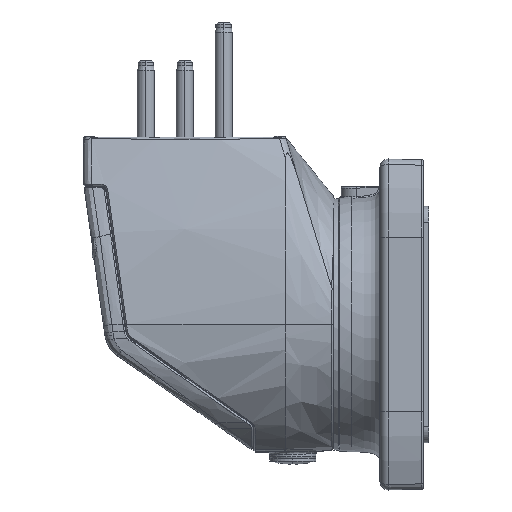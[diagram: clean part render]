
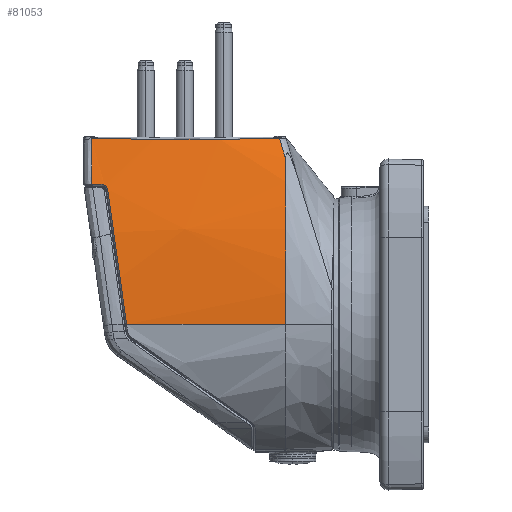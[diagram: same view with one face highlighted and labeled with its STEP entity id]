
A CAD part, left-side view. The second image highlights one B-rep face of the part: STEP entity #81053.
In plain terms, the highlighted free-form (B-spline) face has degree [3, 3] with [5, 5] control points.
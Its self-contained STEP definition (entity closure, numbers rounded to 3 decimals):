
#52681=CARTESIAN_POINT('',(-32.424,16.998,
57.426));
#52710=CARTESIAN_POINT('',(104.245,17.,0.));
#52711=DIRECTION('',(0.,-1.,0.));
#52712=DIRECTION('',(-0.974,0.,0.225));
#52713=AXIS2_PLACEMENT_3D('',#52710,#52711,#52712);
#52718=CARTESIAN_POINT('',(104.245,17.,0.));
#52719=DIRECTION('',(0.,-1.,0.));
#52720=DIRECTION('',(-0.922,0.,0.387));
#52721=AXIS2_PLACEMENT_3D('',#52718,#52719,#52720);
#52739=CARTESIAN_POINT('',(-29.615,19.125,
64.427));
#52740=CARTESIAN_POINT('',(-29.917,18.898,
63.709));
#52741=CARTESIAN_POINT('',(-30.528,18.437,
62.234));
#52742=CARTESIAN_POINT('',(-31.471,17.724,
59.892));
#52743=CARTESIAN_POINT('',(-32.105,17.241,
58.261));
#52744=CARTESIAN_POINT('',(-32.424,16.998,
57.426));
#52749=DIRECTION('',(0.,1.,0.));
#52750=VECTOR('',#52749,55.175);
#52751=CARTESIAN_POINT('',(-44.,17.,0.));
#52752=LINE('',#52751,#52750);
#52756=CARTESIAN_POINT('',(-36.975,78.784,
46.947));
#52757=CARTESIAN_POINT('',(-38.133,78.263,
43.274));
#52758=CARTESIAN_POINT('',(-40.143,77.22,
35.893));
#52759=CARTESIAN_POINT('',(-42.357,75.582,
24.265));
#52760=CARTESIAN_POINT('',(-43.697,73.904,
12.325));
#52761=CARTESIAN_POINT('',(-44.,72.748,
4.088));
#52762=CARTESIAN_POINT('',(-44.,72.175,0.));
#52767=CARTESIAN_POINT('',(-36.295,80.734,
48.676));
#52768=CARTESIAN_POINT('',(-36.31,80.549,
48.673));
#52769=CARTESIAN_POINT('',(-36.355,80.184,
48.615));
#52770=CARTESIAN_POINT('',(-36.468,79.672,
48.379));
#52771=CARTESIAN_POINT('',(-36.616,79.239,
48.006));
#52772=CARTESIAN_POINT('',(-36.792,78.92,
47.514));
#52773=CARTESIAN_POINT('',(-36.915,78.811,
47.138));
#52774=CARTESIAN_POINT('',(-36.975,78.784,
46.947));
#52779=CARTESIAN_POINT('',(-35.994,84.262,
48.743));
#52780=CARTESIAN_POINT('',(-36.029,83.87,
48.736));
#52781=CARTESIAN_POINT('',(-36.099,83.085,
48.721));
#52782=CARTESIAN_POINT('',(-36.199,81.909,
48.699));
#52783=CARTESIAN_POINT('',(-36.263,81.126,
48.684));
#52784=CARTESIAN_POINT('',(-36.295,80.734,
48.676));
#52789=CARTESIAN_POINT('',(-35.994,84.262,
48.743));
#52790=CARTESIAN_POINT('',(-35.586,84.274,
49.948));
#52791=CARTESIAN_POINT('',(-34.722,84.299,
52.401));
#52792=CARTESIAN_POINT('',(-33.283,84.341,
56.168));
#52793=CARTESIAN_POINT('',(-31.643,84.389,
60.131));
#52794=CARTESIAN_POINT('',(-30.369,84.426,
62.968));
#52795=CARTESIAN_POINT('',(-29.684,84.445,
64.425));
#52800=CARTESIAN_POINT('',(-29.615,19.125,
64.427));
#52801=CARTESIAN_POINT('',(-29.878,20.764,
64.42));
#52802=CARTESIAN_POINT('',(-30.37,24.086,
64.408));
#52803=CARTESIAN_POINT('',(-30.993,29.114,
64.392));
#52804=CARTESIAN_POINT('',(-31.519,34.44,
64.379));
#52805=CARTESIAN_POINT('',(-31.917,39.957,
64.368));
#52806=CARTESIAN_POINT('',(-32.172,45.641,
64.361));
#52807=CARTESIAN_POINT('',(-32.269,51.373,
64.359));
#52808=CARTESIAN_POINT('',(-32.208,57.026,
64.36));
#52809=CARTESIAN_POINT('',(-31.996,62.555,
64.366));
#52810=CARTESIAN_POINT('',(-31.66,67.777,
64.375));
#52811=CARTESIAN_POINT('',(-31.208,72.854,
64.387));
#52812=CARTESIAN_POINT('',(-30.598,78.228,
64.402));
#52813=CARTESIAN_POINT('',(-30.022,82.307,
64.417));
#52814=CARTESIAN_POINT('',(-29.684,84.445,
64.425));
#73933=CARTESIAN_POINT('',(-40.209,17.,33.31));
#73934=CARTESIAN_POINT('',(-44.,17.,0.));
#73935=VERTEX_POINT('',#73933);
#73936=VERTEX_POINT('',#73934);
#74151=VERTEX_POINT('',#52756);
#74152=VERTEX_POINT('',#52762);
#74180=VERTEX_POINT('',#52681);
#74183=VERTEX_POINT('',#52739);
#74283=VERTEX_POINT('',#52789);
#74284=VERTEX_POINT('',#52795);
#74977=VERTEX_POINT('',#52767);
#81011=CARTESIAN_POINT('',(-43.999,16.328,
-0.663));
#81012=CARTESIAN_POINT('',(-43.999,28.219,
-0.658));
#81013=CARTESIAN_POINT('',(-43.999,51.147,
-0.659));
#81014=CARTESIAN_POINT('',(-43.999,74.076,
-0.658));
#81015=CARTESIAN_POINT('',(-43.999,85.113,
-0.662));
#81016=CARTESIAN_POINT('',(-44.05,16.328,
10.753));
#81017=CARTESIAN_POINT('',(-44.045,28.219,
10.672));
#81018=CARTESIAN_POINT('',(-44.036,51.147,
10.699));
#81019=CARTESIAN_POINT('',(-44.044,74.076,
10.674));
#81020=CARTESIAN_POINT('',(-44.049,85.113,
10.737));
#81021=CARTESIAN_POINT('',(-41.505,16.328,
33.435));
#81022=CARTESIAN_POINT('',(-41.858,28.219,
33.179));
#81023=CARTESIAN_POINT('',(-42.166,51.147,
32.982));
#81024=CARTESIAN_POINT('',(-41.88,74.076,
33.165));
#81025=CARTESIAN_POINT('',(-41.578,85.113,
33.382));
#81026=CARTESIAN_POINT('',(-33.822,16.328,
54.947));
#81027=CARTESIAN_POINT('',(-35.218,28.219,
54.833));
#81028=CARTESIAN_POINT('',(-36.63,51.147,
54.522));
#81029=CARTESIAN_POINT('',(-35.319,74.076,
54.811));
#81030=CARTESIAN_POINT('',(-34.112,85.113,
54.922));
#81031=CARTESIAN_POINT('',(-28.86,16.328,
65.028));
#81032=CARTESIAN_POINT('',(-30.946,28.219,
65.028));
#81033=CARTESIAN_POINT('',(-32.957,51.147,
65.029));
#81034=CARTESIAN_POINT('',(-31.09,74.076,
65.028));
#81035=CARTESIAN_POINT('',(-29.293,85.113,
65.028));
#81036=B_SPLINE_SURFACE_WITH_KNOTS('',3,3,((#81011,#81012,#81013,#81014,#81015),
(#81016,#81017,#81018,#81019,#81020),(#81021,#81022,#81023,#81024,#81025),(
#81026,#81027,#81028,#81029,#81030),(#81031,#81032,#81033,#81034,#81035)),
.UNSPECIFIED.,.F.,.F.,.F.,(4,1,4),(4,1,4),(-0.01,0.5,
1.),(-0.673,35.043,68.197),
.UNSPECIFIED.);
#81037=ORIENTED_EDGE('',*,*,#80995,.T.);
#81038=ORIENTED_EDGE('',*,*,#80946,.T.);
#81039=ORIENTED_EDGE('',*,*,#80944,.T.);
#81040=ORIENTED_EDGE('',*,*,#78878,.T.);
#81042=ORIENTED_EDGE('',*,*,#81041,.F.);
#81044=ORIENTED_EDGE('',*,*,#81043,.F.);
#81046=ORIENTED_EDGE('',*,*,#81045,.F.);
#81048=ORIENTED_EDGE('',*,*,#81047,.T.);
#81050=ORIENTED_EDGE('',*,*,#81049,.F.);
#81051=EDGE_LOOP('',(#81037,#81038,#81039,#81040,#81042,#81044,#81046,#81048,
#81050));
#81052=FACE_OUTER_BOUND('',#81051,.F.);
#52714=CIRCLE('',#52713,148.245);
#52722=CIRCLE('',#52721,148.245);
#52745=B_SPLINE_CURVE_WITH_KNOTS('',3,(#52739,#52740,#52741,#52742,#52743,
#52744),.UNSPECIFIED.,.F.,.F.,(4,1,1,4),(0.,0.333,
0.667,1.),.UNSPECIFIED.);
#52763=B_SPLINE_CURVE_WITH_KNOTS('',3,(#52756,#52757,#52758,#52759,#52760,
#52761,#52762),.UNSPECIFIED.,.F.,.F.,(4,1,1,1,4),(0.,0.25,0.5,0.75,
1.),.UNSPECIFIED.);
#52775=B_SPLINE_CURVE_WITH_KNOTS('',3,(#52767,#52768,#52769,#52770,#52771,
#52772,#52773,#52774),.UNSPECIFIED.,.F.,.F.,(4,1,1,1,1,4),(0.,
0.2,0.4,0.6,0.8,1.),
.UNSPECIFIED.);
#52785=B_SPLINE_CURVE_WITH_KNOTS('',3,(#52779,#52780,#52781,#52782,#52783,
#52784),.UNSPECIFIED.,.F.,.F.,(4,1,1,4),(0.,0.333,
0.667,1.),.UNSPECIFIED.);
#52796=B_SPLINE_CURVE_WITH_KNOTS('',3,(#52789,#52790,#52791,#52792,#52793,
#52794,#52795),.UNSPECIFIED.,.F.,.F.,(4,1,1,1,4),(0.,0.25,0.5,0.75,
1.),.UNSPECIFIED.);
#52815=B_SPLINE_CURVE_WITH_KNOTS('',3,(#52800,#52801,#52802,#52803,#52804,
#52805,#52806,#52807,#52808,#52809,#52810,#52811,#52812,#52813,#52814),
.UNSPECIFIED.,.F.,.F.,(4,1,1,1,1,1,1,1,1,1,1,1,4),(0.,0.083,
0.167,0.25,0.333,0.417,0.5,
0.583,0.667,0.75,0.833,0.917,
1.),.UNSPECIFIED.);
#78878=EDGE_CURVE('',#73936,#74152,#52752,.T.);
#80944=EDGE_CURVE('',#73935,#73936,#52714,.T.);
#80946=EDGE_CURVE('',#74180,#73935,#52722,.T.);
#80995=EDGE_CURVE('',#74183,#74180,#52745,.T.);
#81041=EDGE_CURVE('',#74151,#74152,#52763,.T.);
#81043=EDGE_CURVE('',#74977,#74151,#52775,.T.);
#81045=EDGE_CURVE('',#74283,#74977,#52785,.T.);
#81047=EDGE_CURVE('',#74283,#74284,#52796,.T.);
#81049=EDGE_CURVE('',#74183,#74284,#52815,.T.);
#81053=ADVANCED_FACE('',(#81052),#81036,.T.);
